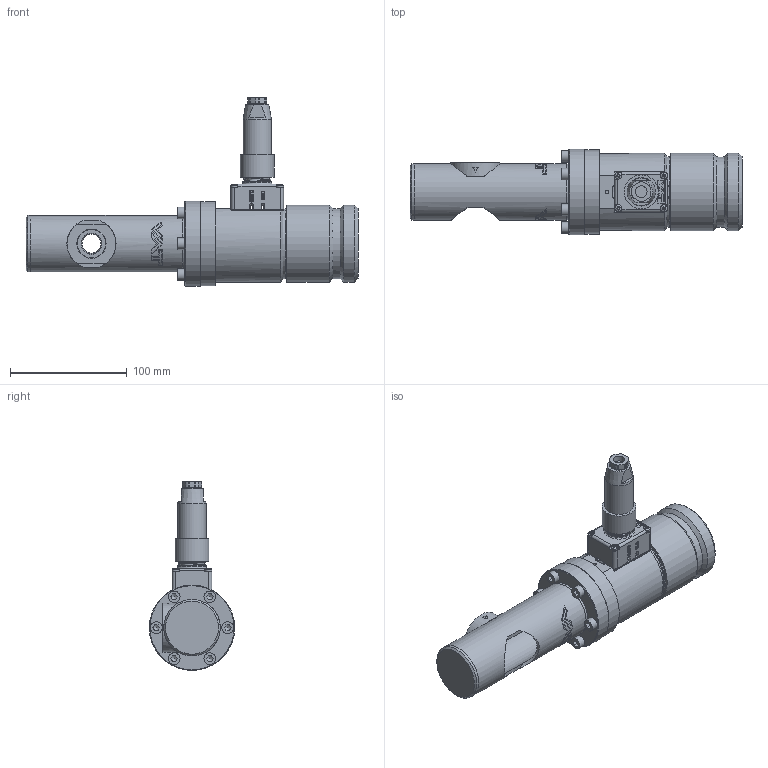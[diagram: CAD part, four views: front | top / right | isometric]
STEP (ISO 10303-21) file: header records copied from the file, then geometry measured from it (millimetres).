
FILE_DESCRIPTION(/* description */ (''),/* implementation_level */ '2;1');
FILE_NAME(/* name */ '1566470690_203.stp',/* time_stamp */ '2016-07-04T08:53:54+02:00',/* author */ (''),/* organization */ (''),/* preprocessor_version */ 'ST-DEVELOPER v15',/* originating_system */ 'SIEMENS PLM Software NX 9.0',/* authorisation */ '');
FILE_SCHEMA (('AP203_CONFIGURATION_CONTROLLED_3D_DESIGN_OF_MECHANICAL_PARTS_AND_ASSEMBLIES_MIM_LF { 1 0 10303 403 2 1 2}'));
Length unit declared in the file: millimetre
Products named in the file (15): 98724-01.1; 98726-01_1.1; 98725-01_1.1; 98723-01.2; 98760-01.1; 74803-01.2; n-8504-002; 220881.1; N-5019-791.1; n-6024-531; 232230.2; 97356-01.3; 69672-01; 98727-r1.4; 98771.2
Assembly tree (22 placements, depth 3):
  98771.2
    69672-01
    97356-01.3
    232230.2
    n-6024-531  x4
    N-5019-791.1  x6
    220881.1
    n-8504-002
    74803-01.2
    98727-r1.4
      98723-01.2
      98725-01_1.1
      98726-01_1.1
      98724-01.1
    98760-01.1
Bounding box: 284 x 73 x 161.5 mm (x, y, z)
Volume: 405257.5 mm3; surface area: 173448.6 mm2
Topology: 33 solids, 33 shells, 910 faces, 2224 edges, 1488 vertices
Faces by surface type: plane 533, cylinder 240, extrusion 56, cone 48, bspline 20, torus 9, sphere 4
Full cylindrical faces by diameter (mm): 1.66 x7, 1.95 x4, 2.25 x4, 3 x9, 3.3 x10, 3.4 x4, 4.917 x4, 4.96 x6, 5 x7, 6 x31, 6.2 x1, 6.4 x2, 6.8 x6, 7.3 x2, 10 x7, 10.2 x1, 11 x2, 12 x4, 12.5 x1, 13.3 x1, 13.85 x1, 14.014 x1, 14.27 x1, 14.9 x1, 15 x1, 15.7 x1, 16.1 x1, 17.55 x1, 18.05 x1, 23.5 x1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
Entity records: 29365 total; most frequent: CARTESIAN_POINT 10061, ORIENTED_EDGE 3368, DIRECTION 3137, EDGE_CURVE 1684, VERTEX_POINT 1237, AXIS2_PLACEMENT_3D 1166, EDGE_LOOP 1124, VECTOR 805
